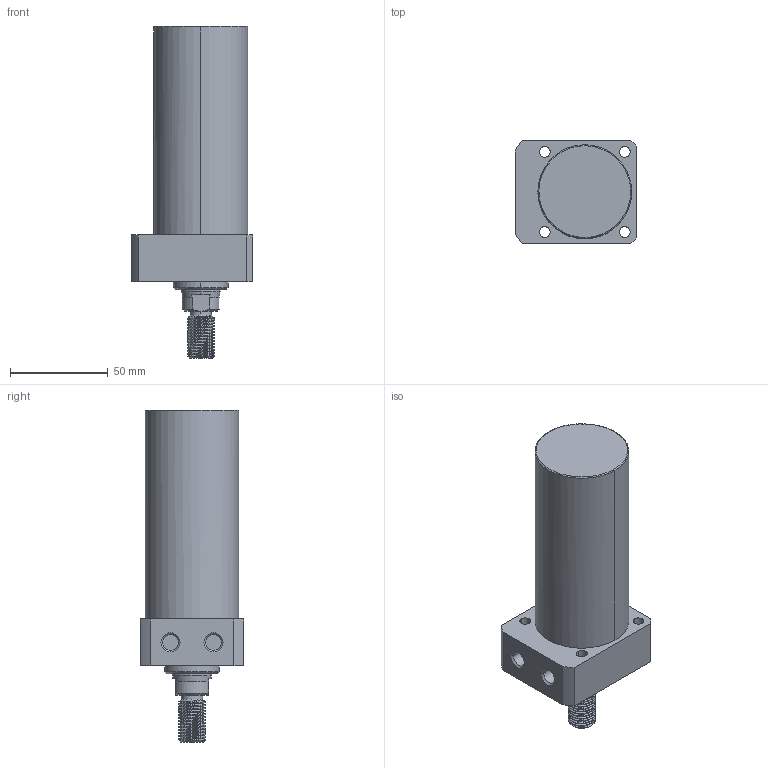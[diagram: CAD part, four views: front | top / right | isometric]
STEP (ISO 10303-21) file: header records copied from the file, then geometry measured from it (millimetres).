
FILE_DESCRIPTION((' '),'2;1');
FILE_NAME( 'TLLR-048CT-080.STEP.stp', '2025-10-24T16:34:35', (' '), ('--- Datakit www.datakit.com---'), ' Datakit CrossCadWare V2024.1 Dec 21 2023', 'Mastercam 2025', ' ');
FILE_SCHEMA(('AUTOMOTIVE_DESIGN { 1 0 10303 214 1 1 1 1 }'));
Length unit declared in the file: millimetre
Products named in the file (1): TLLR-048CT-080
Bounding box: 62 x 53 x 170 mm (x, y, z)
Volume: 276647.1 mm3; surface area: 32730.2 mm2
Topology: 1 solids, 1 shells, 96 faces, 329 edges, 243 vertices
Faces by surface type: cylinder 56, plane 20, cone 16, bspline 2, torus 2
Entity records: 10038 total; most frequent: CARTESIAN_POINT 7142, ORIENTED_EDGE 658, DIRECTION 499, EDGE_CURVE 329, VERTEX_POINT 243, AXIS2_PLACEMENT_3D 204, B_SPLINE_CURVE_WITH_KNOTS 129, EDGE_LOOP 112
